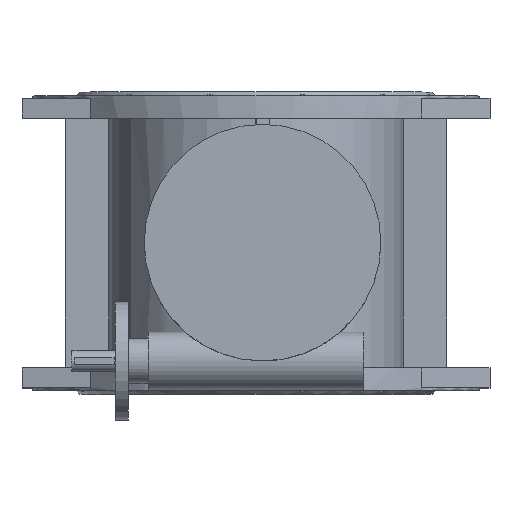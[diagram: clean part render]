
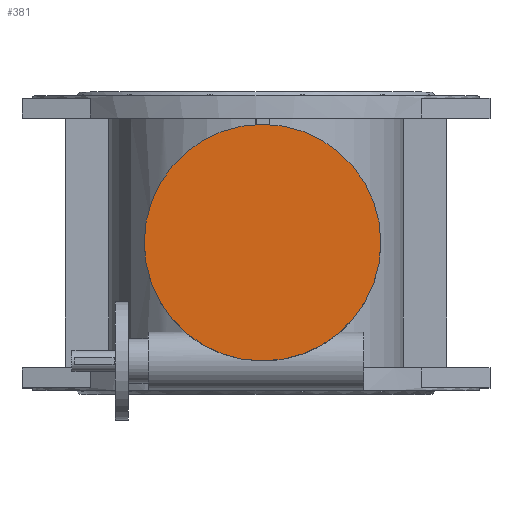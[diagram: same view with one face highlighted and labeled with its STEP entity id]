
A CAD part, top view. The second image highlights one B-rep face of the part: STEP entity #381.
In plain terms, the highlighted planar face has unit normal (0, 0, 1).
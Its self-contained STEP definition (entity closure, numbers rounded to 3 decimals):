
#381=ADVANCED_FACE('',(#1957),#1959,.T.);
#1957=FACE_BOUND('',#1958,.T.);
#1958=EDGE_LOOP('',(#3269));
#1959=PLANE('',#1960);
#1960=AXIS2_PLACEMENT_3D('',#1961,#1962,#1963);
#1961=CARTESIAN_POINT('',(5.,0.,280.));
#1962=DIRECTION('',(0.,0.,1.));
#1963=DIRECTION('',(0.,-1.,0.));
#3269=ORIENTED_EDGE('',*,*,#3975,.T.);
#3975=EDGE_CURVE('',#4466,#4466,#4467,.T.);
#4466=VERTEX_POINT('',#5477);
#4467=CIRCLE('',#5478,90.);
#5477=CARTESIAN_POINT('',(5.,-90.,280.));
#5478=AXIS2_PLACEMENT_3D('',#5479,#5480,#5481);
#5479=CARTESIAN_POINT('',(5.,0.,280.));
#5480=DIRECTION('',(0.,0.,1.));
#5481=DIRECTION('',(0.,-1.,0.));
